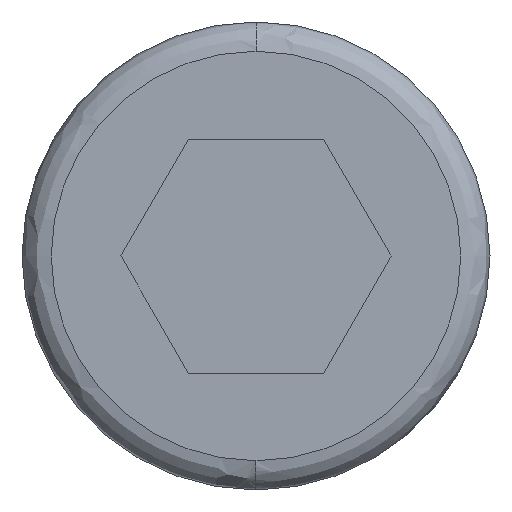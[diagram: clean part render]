
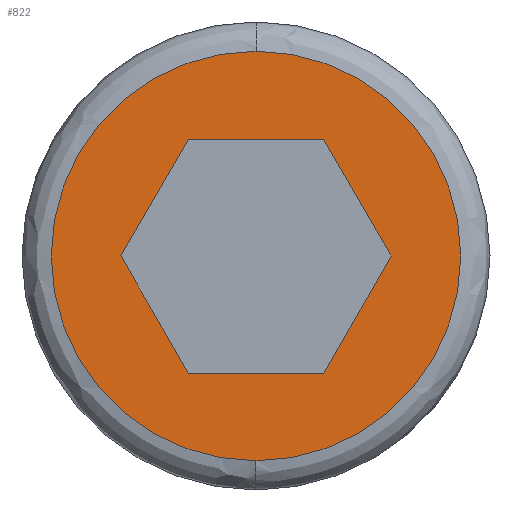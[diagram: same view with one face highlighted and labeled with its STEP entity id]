
A CAD part, left-side view. The second image highlights one B-rep face of the part: STEP entity #822.
In plain terms, the highlighted planar face has unit normal (-1, 0, 0).
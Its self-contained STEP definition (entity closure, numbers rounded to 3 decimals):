
#10 = EDGE_CURVE ( 'NONE', #561, #223, #71, .T. ) ;
#20 = VECTOR ( 'NONE', #169, 1000. ) ;
#38 = LINE ( 'NONE', #374, #20 ) ;
#50 = EDGE_CURVE ( 'NONE', #294, #185, #398, .T. ) ;
#54 = CARTESIAN_POINT ( 'NONE',  ( -10., 2.309, 4. ) ) ;
#55 = CARTESIAN_POINT ( 'NONE',  ( -10., -2.309, -4. ) ) ;
#63 = ORIENTED_EDGE ( 'NONE', *, *, #874, .T. ) ;
#71 = LINE ( 'NONE', #814, #282 ) ;
#83 = CARTESIAN_POINT ( 'NONE',  ( -10., 0., 7. ) ) ;
#97 = LINE ( 'NONE', #720, #414 ) ;
#116 = CARTESIAN_POINT ( 'NONE',  ( -10., 0., 0. ) ) ;
#123 = EDGE_LOOP ( 'NONE', ( #199, #261, #750, #871, #63, #490 ) ) ;
#149 = CIRCLE ( 'NONE', #225, 7. ) ;
#152 = DIRECTION ( 'NONE',  ( 0., 1., 0. ) ) ;
#153 = VERTEX_POINT ( 'NONE', #83 ) ;
#169 = DIRECTION ( 'NONE',  ( 0., -0.5, -0.866 ) ) ;
#185 = VERTEX_POINT ( 'NONE', #370 ) ;
#199 = ORIENTED_EDGE ( 'NONE', *, *, #257, .T. ) ;
#212 = DIRECTION ( 'NONE',  ( 0., 0.5, 0.866 ) ) ;
#214 = CIRCLE ( 'NONE', #706, 7. ) ;
#221 = VERTEX_POINT ( 'NONE', #436 ) ;
#223 = VERTEX_POINT ( 'NONE', #303 ) ;
#225 = AXIS2_PLACEMENT_3D ( 'NONE', #620, #556, #152 ) ;
#234 = DIRECTION ( 'NONE',  ( 0., 0.5, -0.866 ) ) ;
#246 = DIRECTION ( 'NONE',  ( 0., 0., 1. ) ) ;
#254 = CARTESIAN_POINT ( 'NONE',  ( -10., 0., -7. ) ) ;
#257 = EDGE_CURVE ( 'NONE', #223, #221, #38, .T. ) ;
#261 = ORIENTED_EDGE ( 'NONE', *, *, #290, .T. ) ;
#282 = VECTOR ( 'NONE', #543, 1000. ) ;
#290 = EDGE_CURVE ( 'NONE', #221, #877, #431, .T. ) ;
#294 = VERTEX_POINT ( 'NONE', #707 ) ;
#303 = CARTESIAN_POINT ( 'NONE',  ( -10., -2.309, 4. ) ) ;
#305 = AXIS2_PLACEMENT_3D ( 'NONE', #847, #453, #246 ) ;
#313 = PLANE ( 'NONE',  #305 ) ;
#323 = CARTESIAN_POINT ( 'NONE',  ( -10., 4.479, 0.242 ) ) ;
#370 = CARTESIAN_POINT ( 'NONE',  ( -10., 4.619, 0. ) ) ;
#374 = CARTESIAN_POINT ( 'NONE',  ( -10., -2.449, 3.758 ) ) ;
#382 = DIRECTION ( 'NONE',  ( 1., 0., 0. ) ) ;
#384 = FACE_OUTER_BOUND ( 'NONE', #568, .T. ) ;
#398 = LINE ( 'NONE', #663, #445 ) ;
#408 = EDGE_CURVE ( 'NONE', #409, #153, #214, .T. ) ;
#409 = VERTEX_POINT ( 'NONE', #254 ) ;
#414 = VECTOR ( 'NONE', #509, 1000. ) ;
#431 = LINE ( 'NONE', #565, #855 ) ;
#436 = CARTESIAN_POINT ( 'NONE',  ( -10., -4.619, 0. ) ) ;
#445 = VECTOR ( 'NONE', #212, 1000. ) ;
#453 = DIRECTION ( 'NONE',  ( -1., 0., 0. ) ) ;
#490 = ORIENTED_EDGE ( 'NONE', *, *, #10, .T. ) ;
#509 = DIRECTION ( 'NONE',  ( 0., 1., 0. ) ) ;
#543 = DIRECTION ( 'NONE',  ( 0., -1., 0. ) ) ;
#556 = DIRECTION ( 'NONE',  ( 1., 0., 0. ) ) ;
#561 = VERTEX_POINT ( 'NONE', #54 ) ;
#565 = CARTESIAN_POINT ( 'NONE',  ( -10., -3.604, -1.758 ) ) ;
#568 = EDGE_LOOP ( 'NONE', ( #625, #666 ) ) ;
#585 = DIRECTION ( 'NONE',  ( 0., 1., 0. ) ) ;
#620 = CARTESIAN_POINT ( 'NONE',  ( -10., 0., 0. ) ) ;
#625 = ORIENTED_EDGE ( 'NONE', *, *, #408, .F. ) ;
#644 = EDGE_CURVE ( 'NONE', #153, #409, #149, .T. ) ;
#645 = FACE_BOUND ( 'NONE', #123, .T. ) ;
#663 = CARTESIAN_POINT ( 'NONE',  ( -10., 3.324, -2.242 ) ) ;
#666 = ORIENTED_EDGE ( 'NONE', *, *, #644, .F. ) ;
#668 = DIRECTION ( 'NONE',  ( 0., -0.5, 0.866 ) ) ;
#706 = AXIS2_PLACEMENT_3D ( 'NONE', #116, #382, #585 ) ;
#707 = CARTESIAN_POINT ( 'NONE',  ( -10., 2.309, -4. ) ) ;
#720 = CARTESIAN_POINT ( 'NONE',  ( -10., 0.595, -4. ) ) ;
#726 = LINE ( 'NONE', #323, #881 ) ;
#750 = ORIENTED_EDGE ( 'NONE', *, *, #798, .T. ) ;
#798 = EDGE_CURVE ( 'NONE', #877, #294, #97, .T. ) ;
#814 = CARTESIAN_POINT ( 'NONE',  ( -10., 2.905, 4. ) ) ;
#822 = ADVANCED_FACE ( 'NONE', ( #384, #645 ), #313, .T. ) ;
#847 = CARTESIAN_POINT ( 'NONE',  ( -10., 3.5, 0. ) ) ;
#855 = VECTOR ( 'NONE', #234, 1000. ) ;
#871 = ORIENTED_EDGE ( 'NONE', *, *, #50, .T. ) ;
#874 = EDGE_CURVE ( 'NONE', #185, #561, #726, .T. ) ;
#877 = VERTEX_POINT ( 'NONE', #55 ) ;
#881 = VECTOR ( 'NONE', #668, 1000. ) ;
